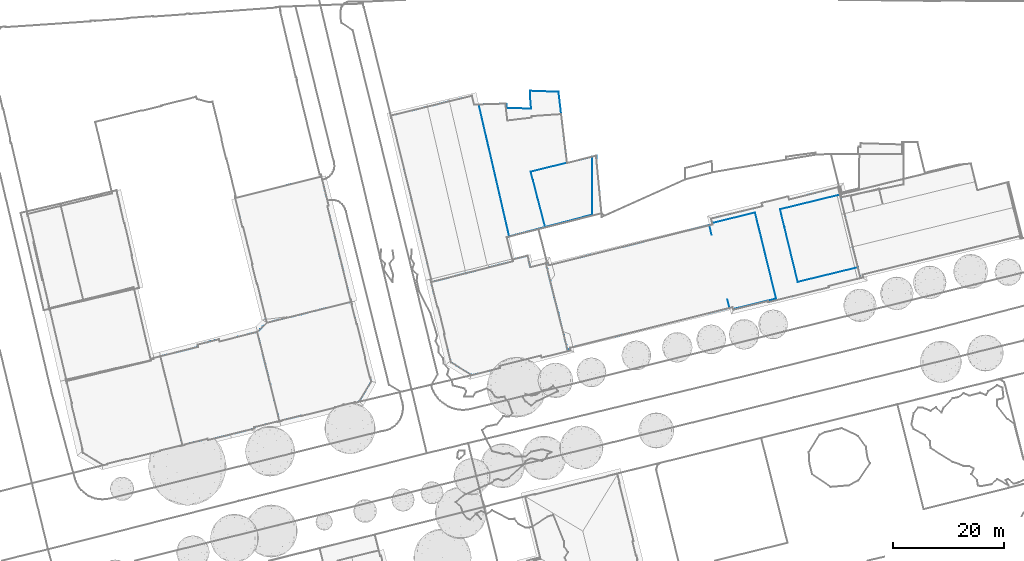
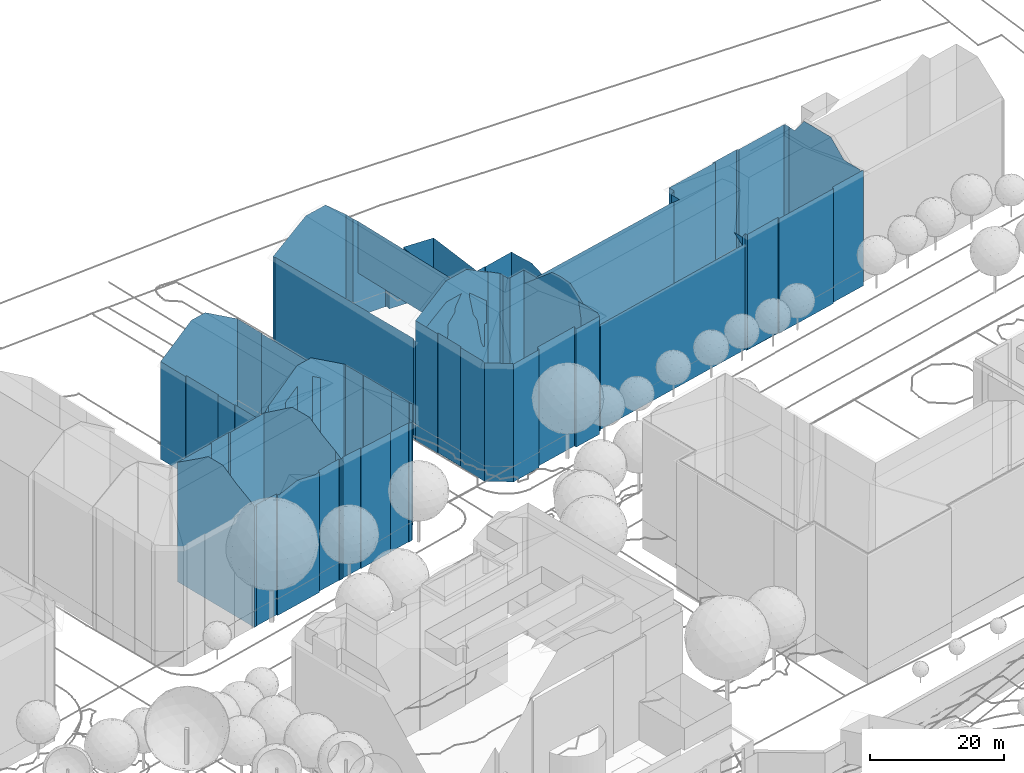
# Not in any storey, part 61 of 477: 6 walls.
"""IFC4 building model written with IfcOpenShell, lengths in metres."""

from ifc_helpers import new_model, si_unit, frame, origin_with_axes, place, context, subcontext, project, spatial, polygons, element, save


model = new_model("IFC4")

# Units and contexts
model_context = context("Model", 3, precision=1e-05, world=origin_with_axes())
body_context = subcontext(model_context, "Body", "Model", "MODEL_VIEW")
ifc_project = project(units=[si_unit("AREAUNIT", "SQUARE_METRE"), si_unit("LENGTHUNIT", "METRE")], contexts=[model_context])

# Sites, building
site_1_placement = place(None, origin_with_axes())
site_1 = spatial("IfcSite", under=ifc_project, at=site_1_placement, Name="Topoexport Site")
site_2_placement = place(site_1_placement, origin_with_axes())
site_2 = spatial("IfcSite", under=site_1, at=site_2_placement, Name="TPX_BUILDINGS")
building_1_placement = place(site_2_placement, frame((308.8567320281, 408.4549160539, 538.5095), z_axis=(0.0, 0.0, 1.0), x_axis=(1.0, 0.0, 0.0)))
building_1 = spatial("IfcBuilding", under=site_2, at=building_1_placement, Name="Building 201", CompositionType="ELEMENT")

# Wall
wall_1_placement = place(None, frame((308.8567320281, 408.4549160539, 538.5095), z_axis=(0.0, 0.0, 1.0), x_axis=(1.0, 0.0, 0.0)))
element("IfcWall", 1, at=wall_1_placement, inside=building_1, Name="Wall 0", context=body_context, shape_type="Tessellation", body=[
    polygons([(13.9759999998, 3.5067999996, 0.0), (15.5039999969, 3.8944999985, 5.4804), (13.9749999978, 3.5067999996, 21.9979), (17.4709999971, 4.3944999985, 22.0598), (16.2980000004, 4.0966999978, 22.0388), (17.4709999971, 4.3944999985, 0.0), (1.5929999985, -6.4024000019, 0.0), (1.0329999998, -4.1513999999, 24.6236), (1.5929999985, -6.4024000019, 26.1974), (18.9299999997, -1.4707000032, 26.1614), (18.9299999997, -1.4707000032, -0.0001), (1.8229999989, -7.3281000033, 0.0), (1.8229999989, -7.3281000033, 26.2114), (19.6349999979, -4.3057000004, -0.0001), (2.3619999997, -9.4942000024, -0.0001), (2.3619999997, -9.4942000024, 26.2094), (19.8399999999, -5.130900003, 26.2024), (19.6349999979, -4.3057000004, 26.2034), (19.8399999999, -5.130900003, -0.0001), (20.5169999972, -7.8545000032, 24.3446), (3.7289999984, -14.9922000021, -0.0001), (3.057, -12.2881000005, 24.3036), (19.1270000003, -12.2373000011, -0.0001), (16.9329999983, -12.7871000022, -0.0001), (16.9329999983, -12.7871000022, 22.1108), (20.5169999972, -7.8545000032, -0.0001), (21.1730000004, -10.4922000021, 22.9007), (16.992999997, -13.0196000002, 21.9838), (16.992999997, -13.0195000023, -0.0001), (16.1469999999, -13.2285000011, -0.0001), (16.0429999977, -13.2539000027, 21.9528), (21.0849999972, -11.746100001, 22.1598), (21.0849999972, -11.746100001, -0.0001), (19.1279999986, -12.2373000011, 22.1858), (21.118999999, -11.8350000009, 22.1008), (21.118999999, -11.8350000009, -0.0001), (21.481999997, -11.7373000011, -0.0001), (21.481999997, -11.7373000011, 22.0998), (21.1730000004, -10.4922000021, -0.0001), (0.0, 0.0, 0.0), (0.6739999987, 0.1679999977, 21.8519), (0.0, 0.0, 21.8489), (1.2280000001, 0.3055999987, 0.0), (0.0189999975, -0.077200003, 21.8899), (10.6609999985, 2.6659999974, 21.9659), (10.6609999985, 2.6659999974, 0.0), (9.0779999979, 2.6963, 5.4074), (8.3409999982, 2.5106999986, 21.6709), (8.3409999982, 2.5106999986, 5.3984), (9.8159999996, 2.8798999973, 8.1272), (9.0779999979, 2.6963, 21.6799), (7.6030000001, 2.3261999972, 0.0), (9.8159999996, 2.8798999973, 21.6879), (10.5529999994, 3.0643999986, 0.0), (10.5529999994, 3.0643999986, 21.6969), (2.625, 0.6552999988, 12.2798), (4.3949999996, 1.0966999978, 21.8919), (2.625, 0.6552999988, 21.8709), (1.2280000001, 0.3055999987, 21.8539), (4.0219999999, 1.0028999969, 0.0), (6.8149999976, 1.7011999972, 0.0), (1.0329999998, -4.1513999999, 0.0), (7.1600000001, 2.2148000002, 5.4134), (6.7170000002, 2.1034999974, 21.6589), (6.7170000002, 2.1034999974, 0.0), (7.4019999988, 2.2753999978, 21.6609), (6.7300000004, 2.047799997, 0.0), (6.7300000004, 2.0507999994, 21.6879), (14.8709999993, -13.5439999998, 22.2168), (13.9749999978, -13.7666000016, 8.5691), (12.5759999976, -14.1123000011, -0.0001), (12.6050000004, -14.1055000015, 22.7268), (8.9059999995, -15.0215000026, -0.0001), (9.057, -14.9844000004, 21.9508), (6.0240000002, -15.4932000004, -0.0001), (7.3809999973, -15.1582000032, 22.1318), (8.5139999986, -14.8770000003, -0.0001), (8.5139999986, -14.8770000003, 22.0928), (6.5419999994, -15.3652000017, 11.0689), (5.3019999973, -15.6719000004, 22.1818), (5.8839999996, -15.5283000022, 22.1838), (8.568, -15.1055000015, 21.9678), (8.568, -15.1055000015, -0.0001), (4.3649999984, -15.996100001, -0.0001), (4.0009999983, -16.0850000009, 22.1238), (4.3649999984, -15.996100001, 22.1238), (4.0009999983, -16.0850000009, -0.0001), (4.3420999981, -15.9101000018, 22.1788), (4.3420000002, -15.9101999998, -0.0001), (5.498999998, -15.6231000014, 5.5444), (3.7410000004, -15.0381000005, 22.7808), (6.8149999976, 1.7011999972, 21.9219)], [[[3, 2, 1]], [[6, 5, 4]], [[5, 6, 2]], [[2, 6, 1]], [[9, 8, 7]], [[6, 4, 10]], [[11, 6, 10]], [[13, 9, 12]], [[10, 14, 11]], [[16, 12, 15]], [[18, 17, 14]], [[17, 20, 19]], [[22, 15, 21]], [[25, 24, 23]], [[20, 27, 26]], [[30, 29, 28]], [[31, 30, 28]], [[23, 33, 32]], [[34, 23, 32]], [[36, 35, 33]], [[32, 33, 35]], [[38, 36, 37]], [[38, 35, 36]], [[27, 37, 39]], [[37, 27, 38]], [[42, 41, 40]], [[41, 43, 40]], [[44, 42, 40]], [[46, 45, 3]], [[3, 1, 46]], [[49, 48, 47]], [[47, 51, 50]], [[49, 52, 48]], [[52, 49, 47]], [[55, 54, 53]], [[53, 54, 50]], [[47, 50, 54]], [[47, 54, 52]], [[58, 57, 56]], [[58, 56, 59]], [[43, 59, 56]], [[60, 56, 57]], [[60, 43, 56]], [[61, 60, 57]], [[8, 44, 62]], [[65, 64, 63]], [[63, 66, 52]], [[63, 52, 65]], [[68, 64, 67]], [[30, 31, 69]], [[70, 30, 69]], [[72, 71, 70]], [[70, 71, 30]], [[71, 74, 73]], [[77, 76, 75]], [[77, 78, 76]], [[81, 80, 79]], [[79, 80, 75]], [[78, 77, 82]], [[82, 77, 83]], [[73, 74, 83]], [[86, 85, 84]], [[84, 85, 87]], [[86, 89, 88]], [[90, 80, 89]], [[80, 90, 75]], [[75, 90, 89]], [[88, 89, 80]], [[85, 21, 87]], [[21, 85, 91]], [[3, 5, 2]], [[8, 62, 7]], [[9, 7, 12]], [[18, 14, 10]], [[13, 12, 16]], [[17, 19, 14]], [[20, 26, 19]], [[16, 15, 22]], [[25, 29, 24]], [[28, 29, 25]], [[25, 23, 34]], [[27, 39, 26]], [[59, 43, 41]], [[45, 54, 55]], [[45, 46, 54]], [[48, 51, 47]], [[51, 53, 50]], [[52, 66, 48]], [[61, 92, 67]], [[68, 67, 92]], [[92, 61, 57]], [[44, 40, 62]], [[64, 66, 63]], [[64, 65, 67]], [[70, 69, 72]], [[72, 74, 71]], [[76, 81, 79]], [[76, 79, 75]], [[82, 83, 74]], [[22, 21, 91]], [[86, 84, 89]]]),
])

# Building
building_2_placement = place(site_2_placement, frame((322.3647320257, 436.9627160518, 538.8935), z_axis=(0.0, 0.0, 1.0), x_axis=(1.0, 0.0, 0.0)))
building_2 = spatial("IfcBuilding", under=site_2, at=building_2_placement, Name="Building 203", CompositionType="ELEMENT")

# Wall
wall_2_placement = place(None, frame((322.3647320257, 436.9627160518, 538.8935), z_axis=(0.0, 0.0, 1.0), x_axis=(1.0, 0.0, 0.0)))
element("IfcWall", 2, at=wall_2_placement, inside=building_2, Name="Wall 0", context=body_context, shape_type="Tessellation", body=[
    polygons([(6.2010000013, 1.558600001, -0.0001), (9.0160000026, 2.2666000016, 22.2648), (6.2010000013, 1.558600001, 22.2648), (14.6490000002, -20.2509999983, -0.0001), (11.8310000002, -20.9481999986, 22.2648), (14.6490000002, -20.2509999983, 22.2648), (3.0940000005, -11.9248000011, -0.0001), (3.0940000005, -11.9248000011, 17.9242), (3.0170000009, -11.9463, 17.8682), (3.0170000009, -11.9463, -0.0001), (3.887000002, -15.4481999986, 17.8642), (3.887000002, -15.4481999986, -0.0001), (3.9580000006, -15.436499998, 17.9142), (3.9580000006, -15.4365999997, -0.0001), (5.693, -22.4668000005, -0.0001), (4.8839999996, -19.1884999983, 17.9052), (5.693, -22.4668000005, 17.8982), (11.8310000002, -20.9481999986, -0.0001), (0.0, 0.0, 17.8492), (0.0, 0.0, 0.0), (1.2719999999, -5.2040999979, 17.8292), (1.2719999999, -5.2040999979, -0.0001), (0.5080000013, -2.0780999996, 17.8412), (1.432, -5.177699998, 17.9412), (1.432, -5.1777999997, -0.0001), (16.8340000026, -1.3456999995, -0.0001), (16.6009999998, -1.4043000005, -0.0001), (16.8340000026, -1.3456999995, 17.8612), (16.2490000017, 1.0243999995, -0.0001), (16.2820000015, 0.8887000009, 17.8572), (15.9020000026, 2.4257999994, 17.8542), (15.5370000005, 3.9061999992, -0.0001), (9.0160000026, 2.2666000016, -0.0001), (15.5370000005, 3.9061999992, 17.8512), (20.9400000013, -18.6942999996, 18.0102), (20.9400000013, -18.6942999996, -0.0001), (20.8540000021, -18.3202999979, 18.0052), (20.8540000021, -18.3202999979, -0.0001), (20.7660000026, -18.3398000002, 18.0652), (20.7660000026, -18.3398000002, -0.0001), (18.6830000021, -9.8720999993, 18.0422), (16.6009999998, -1.4043000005, 18.0192)], [[[3, 2, 1]], [[6, 5, 4]], [[9, 8, 7]], [[9, 7, 10]], [[12, 11, 9]], [[10, 12, 9]], [[14, 13, 11]], [[11, 12, 14]], [[17, 16, 15]], [[15, 16, 14]], [[13, 14, 16]], [[5, 17, 18]], [[20, 19, 3]], [[1, 20, 3]], [[23, 22, 21]], [[19, 20, 23]], [[25, 24, 21]], [[22, 25, 21]], [[7, 8, 24]], [[28, 27, 26]], [[31, 30, 29]], [[31, 29, 32]], [[30, 28, 29]], [[2, 32, 33]], [[34, 32, 2]], [[36, 35, 6]], [[4, 36, 6]], [[38, 37, 36]], [[36, 37, 35]], [[40, 39, 37]], [[37, 38, 40]], [[27, 41, 40]], [[39, 40, 41]], [[2, 33, 1]], [[5, 18, 4]], [[17, 15, 18]], [[22, 23, 20]], [[24, 25, 7]], [[42, 27, 28]], [[32, 34, 31]], [[28, 26, 29]], [[27, 42, 41]]]),
])

# Building
building_3_placement = place(site_2_placement, frame((326.3277320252, 412.8494160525, 538.5095), z_axis=(0.0, 0.0, 1.0), x_axis=(1.0, 0.0, 0.0)))
building_3 = spatial("IfcBuilding", under=site_2, at=building_3_placement, Name="Building 205", CompositionType="ELEMENT")

# Wall
wall_3_placement = place(None, frame((326.3277320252, 412.8494160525, 538.5095), z_axis=(0.0, 0.0, 1.0), x_axis=(1.0, 0.0, 0.0)))
element("IfcWall", 3, at=wall_3_placement, inside=building_3, Name="Wall 0", context=body_context, shape_type="Tessellation", body=[
    polygons([(4.3540000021, -15.9589999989, -0.0001), (7.4100000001, -15.2089999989, 22.0508), (7.9780000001, -15.0692999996, -0.0001), (4.3770000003, -16.0507999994, 22.0828), (4.3770000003, -16.0507999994, -0.0001), (4.012000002, -16.1328000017, 22.0998), (4.012000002, -16.1328000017, -0.0001), (3.7020000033, -14.8867000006, -0.0001), (3.7020000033, -14.8867000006, 22.9007), (3.0460000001, -12.2490000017, -0.0001), (9.9140000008, 3.6708999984, 0.0), (10.2670000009, 3.7578000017, -0.0001), (9.9140000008, 3.6708999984, 26.2564), (2.1640000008, -8.7001999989, -0.0001), (1.4590000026, -5.8652000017, 26.1614), (2.1640000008, -8.7001999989, 26.2034), (2.3690000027, -9.5254000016, -0.0001), (2.3690000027, -9.5254000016, 26.2024), (3.0460000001, -12.2490000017, 24.3446), (7.6760000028, 3.1171999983, 26.2614), (7.4759999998, 3.0683999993, 26.2614), (7.4759999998, 3.0683999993, 0.0), (7.6760000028, 3.1171999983, 0.0), (1.7750000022, 1.6572000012, 21.7879), (4.2250000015, 2.2637000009, 0.0), (3.9960000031, 2.2069999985, 23.5307), (1.7300000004, 1.6464999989, 0.0), (1.7300000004, 1.6464999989, 21.7779), (0.9830000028, 0.9365000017, 21.8099), (0.9770000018, 0.9307000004, 9.531), (0.5260000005, 0.5009999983, 21.8299), (0.5190000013, 0.4941999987, 0.0), (0.325000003, 0.3106000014, 21.9169), (0.2140000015, 0.2030999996, 8.1792), (0.0, 0.0, 0.0), (0.0, 0.0, 22.0598), (1.4590000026, -5.8652000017, -0.0001), (18.3960000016, -12.496100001, -0.0001), (18.3960000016, -12.496100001, 21.7298), (18.6440000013, -12.0839999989, -0.0001), (16.9869999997, 5.0166000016, 21.8229), (17.0620000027, 5.0449000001, -0.0001), (16.9869999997, 5.0166000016, -0.0001), (17.0620000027, 5.0449000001, 21.7719), (16.9830000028, 5.4199000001, 21.7569), (16.9830000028, 5.4199000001, -0.0001), (17.4060000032, 3.3427999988, -0.0001), (7.9780000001, -15.0692999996, 22.0338), (8.0090000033, -15.1504000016, 21.9738), (8.0090000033, -15.1504000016, -0.0001), (14.0, -13.6640000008, 21.8038), (14.0, -13.6640000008, -0.0001), (17.6180000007, -12.6787, -0.0001), (13.9890000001, -13.5839999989, 21.8588), (17.6180000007, -12.6787, 21.7578), (13.9890000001, -13.5839999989, -0.0001), (17.6500000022, -12.7685000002, 21.6928), (17.6500000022, -12.7685000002, -0.0001), (18.3360000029, -12.5956999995, 21.6748), (18.3360000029, -12.5956999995, -0.0001), (10.6460000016, 3.8526000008, -0.0001), (10.6460000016, 3.8526000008, 26.0255), (10.2670000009, 3.7578000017, 26.2694), (17.9869999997, 1.3975000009, -0.0001), (19.4560000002, -4.5868999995, 21.8548), (17.9869999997, 1.3975000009, 21.7979), (19.4560000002, -4.5868999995, -0.0001), (17.8969999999, 1.3828000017, -0.0001), (17.4290000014, 3.2481000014, 21.8479), (17.8969999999, 1.3828000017, 21.8589), (20.5439999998, -8.8817999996, -0.0001), (20.3780000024, -8.2148000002, 21.8678), (20.3780000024, -8.2148000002, -0.0001), (20.5439999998, -8.8817999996, 21.8728), (20.2939999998, -8.2529000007, 21.9288), (20.2939999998, -8.2529000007, -0.0001), (19.3900000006, -4.6024999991, 21.8998), (19.3900000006, -4.6024999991, -0.0001), (20.5530000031, -8.9160000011, -0.0001), (18.745000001, -11.9169999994, 21.7338), (20.5530000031, -8.9160000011, 21.8558), (4.4050000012, -15.9453000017, 22.1468), (4.3542000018, -15.9589000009, 22.1478)], [[[3, 2, 1]], [[6, 5, 4]], [[6, 7, 5]], [[4, 5, 1]], [[6, 8, 7]], [[8, 6, 9]], [[9, 10, 8]], [[13, 12, 11]], [[16, 15, 14]], [[18, 14, 17]], [[19, 17, 10]], [[22, 21, 20]], [[23, 22, 20]], [[20, 13, 23]], [[26, 25, 24]], [[24, 25, 27]], [[27, 28, 24]], [[30, 29, 27]], [[30, 31, 29]], [[32, 31, 30]], [[28, 27, 29]], [[30, 27, 32]], [[34, 33, 32]], [[36, 33, 35]], [[33, 31, 32]], [[34, 32, 35]], [[15, 35, 37]], [[35, 15, 36]], [[40, 39, 38]], [[43, 42, 41]], [[46, 45, 44]], [[43, 41, 47]], [[3, 48, 2]], [[50, 49, 48]], [[48, 3, 50]], [[51, 49, 50]], [[52, 51, 50]], [[55, 54, 53]], [[54, 56, 53]], [[58, 57, 53]], [[60, 59, 57]], [[60, 38, 39]], [[62, 46, 61]], [[45, 46, 62]], [[63, 62, 12]], [[66, 65, 64]], [[65, 67, 64]], [[68, 66, 64]], [[69, 68, 47]], [[69, 70, 68]], [[73, 72, 71]], [[74, 71, 72]], [[76, 75, 73]], [[72, 73, 75]], [[78, 77, 75]], [[75, 76, 78]], [[65, 78, 67]], [[81, 80, 79]], [[39, 40, 80]], [[80, 40, 79]], [[74, 81, 71]], [[81, 79, 71]], [[82, 1, 2]], [[83, 1, 82]], [[83, 4, 1]], [[19, 10, 9]], [[63, 12, 13]], [[15, 37, 14]], [[16, 14, 18]], [[18, 17, 19]], [[13, 11, 23]], [[25, 26, 22]], [[21, 22, 26]], [[33, 34, 35]], [[42, 44, 41]], [[44, 42, 46]], [[41, 69, 47]], [[56, 54, 51]], [[51, 52, 56]], [[53, 57, 55]], [[57, 58, 60]], [[60, 39, 59]], [[62, 61, 12]], [[66, 68, 70]], [[77, 78, 65]]]),
])

# Building
building_4_placement = place(site_2_placement, frame((350.3717320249, 451.8328160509, 539.2744), z_axis=(0.0, 0.0, 1.0), x_axis=(1.0, 0.0, 0.0)))
building_4 = spatial("IfcBuilding", under=site_2, at=building_4_placement, Name="Building 206", CompositionType="ELEMENT")

# Wall
wall_4_placement = place(None, frame((350.3717320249, 451.8328160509, 539.2744), z_axis=(0.0, 0.0, 1.0), x_axis=(1.0, 0.0, 0.0)))
element("IfcWall", 4, at=wall_4_placement, inside=building_4, Name="Wall 0", context=body_context, shape_type="Tessellation", body=[
    polygons([(25.1130000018, 3.630900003, 0.095), (25.1490000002, 4.4883000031, 8.0292), (25.1130000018, 3.630900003, 8.0292), (25.307, 1.2930000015, 0.095), (25.307, 1.2930000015, 8.0292), (20.8680000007, 1.375, 0.095), (20.8680000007, 1.375, 8.0292), (20.8850000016, 2.0957000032, 0.095), (20.8850000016, 2.0957000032, 8.0292), (20.6960000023, 2.0938000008, 0.095), (20.6960000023, 2.0938000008, 8.0292), (20.6870000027, 2.1709000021, 0.095), (20.6870000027, 2.1709000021, 8.0292), (15.875, 2.0215000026, 0.095), (15.875, 2.0215000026, 8.0292), (36.3470000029, -17.8378999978, 0.0949), (27.8430000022, -20.0673999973, 0.2009), (36.3470000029, -17.8378999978, 0.2009), (21.3670000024, -21.7636999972, 0.095), (21.3670000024, -21.7636999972, 8.0292), (27.8430000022, -20.0673999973, 8.0292), (36.2890000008, -7.4042999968, 0.0951), (36.2890000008, -7.4042999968, 0.2011), (25.1490000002, 4.4883000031, 0.095), (30.2460000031, 4.3076000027, 8.0292), (20.9350000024, -21.9130999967, 0.0), (22.0300000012, -26.2577999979, 8.8621), (22.0300000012, -26.2577999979, 13.3337), (22.0300000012, -26.2577999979, 17.8043), (20.9350000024, -21.9130999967, 17.8843), (22.0300000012, -26.2577999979, 4.3915), (22.0300000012, -26.2577999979, 0.0), (21.376000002, -21.8007999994, 0.0), (21.2390000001, -21.8358999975, 17.6033), (21.376000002, -21.8007999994, 17.4763), (21.1600000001, -21.8563999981, 4.8625), (14.6540000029, 3.5850000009, 13.6687), (15.0380000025, 2.0215000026, 18.2053), (14.6540000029, 3.5850000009, 18.2253), (14.6540000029, 3.5850000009, 4.5566), (15.0380000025, 2.0215000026, 0.0), (14.6540000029, 3.5850000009, 0.0), (0.0, 0.0, 13.3667), (0.0950000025, -0.3954999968, 17.8253), (0.0, 0.0, 8.9102), (0.0, 0.0, 17.8233), (0.0950000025, -0.3954999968, 0.0), (0.0, 0.0, 0.0), (0.1580000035, -0.3807999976, 0.0), (0.1580000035, -0.3807999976, 17.8653), (7.3410000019, -29.5145999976, 0.0), (3.7460000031, -14.9345999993, 18.0003), (7.1830000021, -29.5585999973, 18.0362), (7.1830000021, -29.5585999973, 0.0), (7.3410000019, -29.5145999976, 18.1362), (7.2940000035, -30.003899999, 13.5307), (7.2940000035, -30.003899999, 18.0412), (7.2940000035, -30.003899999, 0.0), (15.875, 2.0215000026, 8.3732), (15.875, 2.0215000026, 17.4763), (15.875, 2.0215000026, 0.0), (15.6660000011, 2.0215000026, 4.0046), (37.0890000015, -7.1639999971, 10.037), (37.0260000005, -7.1796999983, 10.037), (37.0260000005, -7.1796999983, 0.201), (37.0890000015, -7.1639999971, 0.201), (37.0260000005, -7.2177999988, 0.201), (37.0260000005, -7.2177999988, 7.5832), (31.7920000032, -8.5419999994, 0.095), (31.7920000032, -8.5419999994, 10.047), (37.0260000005, -7.2177999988, 10.044), (10.568, 2.5850000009, 21.9849), (6.6030000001, 1.6152000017, 21.9849), (10.568, 2.5850000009, 0.0), (6.6030000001, 1.6152000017, 0.0), (17.4960000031, -27.4111000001, 21.9849), (13.5390000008, -28.4169999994, 21.9849), (17.4960000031, -27.4111000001, 0.0), (13.5390000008, -28.4169999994, 0.0), (30.2460000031, 4.3076000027, 0.095), (30.7310000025, 0.2763999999, 8.0292), (30.7310000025, 0.2763999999, 0.095), (31.7840000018, -8.4706999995, 8.0292), (31.7840000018, -8.4706999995, 10.033), (37.5200000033, -12.4520999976, 11.0529), (37.0990000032, -7.994099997, 10.194), (37.0990000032, -7.994099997, 0.201), (37.5200000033, -12.4520999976, 0.2009), (38.0050000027, -17.5975999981, 0.2009), (38.0050000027, -17.5975999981, 10.051), (27.8670000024, -20.1611000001, 0.2009), (27.8670000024, -20.1611000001, 10.067), (25.2400000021, -10.0819999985, 8.0292), (25.2400000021, -10.0819999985, 10.03), (26.5840000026, -15.2343999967, 8.0292), (26.5840000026, -15.2343999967, 11.0609), (26.4370000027, -14.6737999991, 10.9499), (25.6490000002, -11.6473999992, 8.0292), (25.6490000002, -11.6473999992, 10.342), (26.4370000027, -14.6737999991, 8.0292)], [[[3, 2, 1]], [[5, 3, 4]], [[7, 5, 6]], [[9, 7, 8]], [[11, 9, 10]], [[13, 11, 12]], [[15, 13, 14]], [[18, 17, 16]], [[16, 17, 19]], [[20, 19, 17]], [[20, 17, 21]], [[23, 18, 22]], [[2, 25, 24]], [[28, 27, 26]], [[30, 29, 28]], [[31, 26, 27]], [[31, 32, 26]], [[35, 34, 33]], [[34, 36, 33]], [[33, 36, 26]], [[30, 26, 36]], [[39, 38, 37]], [[40, 37, 38]], [[42, 40, 41]], [[40, 38, 41]], [[45, 44, 43]], [[43, 44, 46]], [[45, 48, 47]], [[50, 47, 49]], [[50, 44, 47]], [[52, 50, 51]], [[50, 49, 51]], [[54, 53, 51]], [[55, 51, 53]], [[57, 53, 56]], [[53, 54, 56]], [[56, 54, 58]], [[60, 35, 59]], [[61, 14, 19]], [[35, 20, 59]], [[20, 33, 19]], [[19, 33, 61]], [[20, 15, 59]], [[41, 59, 62]], [[38, 60, 59]], [[62, 59, 15]], [[41, 62, 61]], [[14, 61, 62]], [[15, 14, 62]], [[65, 64, 63]], [[65, 63, 66]], [[68, 65, 67]], [[70, 23, 69]], [[23, 70, 68]], [[22, 69, 23]], [[71, 68, 70]], [[68, 67, 23]], [[73, 72, 39]], [[46, 73, 37]], [[43, 46, 37]], [[43, 74, 45]], [[73, 39, 37]], [[40, 43, 37]], [[40, 74, 43]], [[48, 45, 75]], [[75, 45, 74]], [[40, 42, 74]], [[28, 29, 76]], [[28, 76, 77]], [[27, 28, 77]], [[57, 31, 27]], [[31, 78, 32]], [[57, 27, 77]], [[78, 57, 56]], [[78, 56, 79]], [[56, 58, 79]], [[57, 78, 31]], [[25, 81, 80]], [[82, 80, 81]], [[81, 83, 82]], [[84, 70, 83]], [[69, 83, 70]], [[83, 69, 82]], [[87, 86, 85]], [[85, 88, 87]], [[88, 90, 89]], [[90, 88, 85]], [[90, 92, 91]], [[90, 91, 89]], [[94, 83, 93]], [[83, 94, 84]], [[92, 96, 95]], [[95, 96, 97]], [[92, 95, 21]], [[21, 17, 91]], [[21, 91, 92]], [[99, 94, 98]], [[97, 99, 100]], [[99, 98, 100]], [[98, 94, 93]], [[97, 100, 95]], [[2, 24, 1]], [[3, 1, 4]], [[5, 4, 6]], [[7, 6, 8]], [[9, 8, 10]], [[11, 10, 12]], [[13, 12, 14]], [[18, 16, 22]], [[25, 80, 24]], [[26, 30, 28]], [[34, 30, 36]], [[47, 44, 45]], [[52, 51, 55]], [[35, 33, 20]], [[59, 41, 38]], [[63, 86, 87]], [[87, 66, 63]], [[71, 65, 68]], [[65, 71, 64]]]),
])

# Building
building_5_placement = place(site_2_placement, frame((378.372732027, 425.1658160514, 539.4553), z_axis=(0.0, 0.0, 1.0), x_axis=(1.0, 0.0, 0.0)))
building_5 = spatial("IfcBuilding", under=site_2, at=building_5_placement, Name="Building 207", CompositionType="ELEMENT")

# Wall
wall_5_placement = place(None, frame((378.372732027, 425.1658160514, 539.4553), z_axis=(0.0, 0.0, 1.0), x_axis=(1.0, 0.0, 0.0)))
element("IfcWall", 5, at=wall_5_placement, inside=building_5, Name="Wall 0", context=body_context, shape_type="Tessellation", body=[
    polygons([(42.188000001, 9.8095000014, 0.132), (52.9899999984, 12.4521999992, 0.163), (42.1889999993, 9.8095000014, 0.163), (29.436999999, 6.9081999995, 19.2892), (29.436999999, 6.9081999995, 20.827), (29.8669999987, 5.1484999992, 20.827), (51.0260000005, -4.2675999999, 21.159), (40.0529999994, -6.9657999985, 0.163), (45.4450000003, -5.6395999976, 21.154), (40.0529999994, -6.9657999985, 21.149), (51.0260000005, -4.2675999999, 0.163), (50.9609999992, -4.0370999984, 0.163), (50.9609999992, -4.0370999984, 21.3139), (56.7109999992, -2.6162, 0.163), (40.0020000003, -6.7577999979, 5.4445), (40.0020000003, -6.7577999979, 0.163), (40.0020000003, -6.7577999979, 16.0075), (57.2010000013, -2.503899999, 0.163), (57.2010000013, -2.503899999, 15.9485), (57.1889999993, -2.4569999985, 5.4245), (57.1889999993, -2.4569999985, 15.9485), (57.2010000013, -2.503899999, 21.21), (57.1889999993, -2.4571000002, 0.163), (53.1550000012, 12.4912, 0.163), (52.9899999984, 12.4512000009, 5.6525), (52.870000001, 13.8330000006, 0.163), (52.6600000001, 13.7871000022, 21.216), (52.6600000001, 13.7871000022, 0.163), (52.870000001, 13.8330000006, 21.22), (43.8299999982, 11.5479000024, 0.163), (48.362999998, 12.697300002, 21.241), (43.8299999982, 11.5479000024, 21.266), (49.2190000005, 12.9141000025, 0.163), (38.8759999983, 10.9365000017, 0.163), (43.6860000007, 12.1240000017, 0.163), (43.6860000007, 12.1240000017, 20.88), (39.0199999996, 10.3516000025, 15.9995), (38.8759999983, 10.9365000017, 20.887), (39.0199999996, 10.3516000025, 21.279), (39.0199999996, 10.3516000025, 10.721), (39.0199999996, 10.3516000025, 0.163), (4.300999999, -15.177699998, 4.9885), (4.3539999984, -15.378899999, 19.0482), (4.300999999, -15.177699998, 19.2252), (4.300999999, -15.177699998, 0.0), (4.3539999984, -15.378899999, 0.0), (3.8720000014, -15.4970999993, 0.0), (3.8720000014, -15.4970999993, 19.0482), (0.0, 0.0, 0.0), (0.4160000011, 0.1016000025, 0.0), (0.0, 0.0, 19.0482), (33.0839999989, -8.0057999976, 19.3341), (32.6669999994, -6.2987999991, 20.827), (33.0839999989, -8.0057999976, 20.827), (41.4809999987, -6.2987999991, 0.0), (33.7300000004, -8.1952999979, 0.0), (41.4809999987, -6.2987999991, 0.163), (29.9499999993, 7.3252000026, 0.0), (37.6860000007, 9.2168000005, 0.163), (29.9499999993, 7.3252000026, 0.163), (56.2250000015, -0.6464999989, 0.132), (45.3929999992, -3.2949000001, 0.132), (56.2239999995, -0.6464999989, 0.163), (29.8159999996, 8.1328000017, 0.163), (29.7522, 8.1173, 21.215), (29.7522, 8.1173, 0.163), (29.8159999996, 8.1328000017, 21.259), (30.0179999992, 7.0527999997, 0.0), (30.0179999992, 7.0527999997, 21.219), (0.5309999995, -0.3066000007, 19.4092), (0.5309999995, -0.3066000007, 0.0), (33.6479999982, -7.8662, 21.207), (33.6479999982, -7.8662, 0.0), (33.7639999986, -8.3319999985, 0.163), (33.7300000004, -8.1952999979, 0.163), (33.7639999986, -8.3319999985, 21.208), (33.8370000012, -8.3134999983, 21.258), (40.0020000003, -6.7577999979, 21.288), (33.8370000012, -8.3134999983, 0.163), (57.0370000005, -2.5409999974, 0.163), (57.0370000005, -2.5409999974, 21.3199), (56.7109999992, -2.6162, 21.3229), (56.7010000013, -2.5760999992, 21.3499), (56.7010000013, -2.5760999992, 0.163), (56.9820000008, -2.5077999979, 0.163), (56.9820000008, -2.5077999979, 21.3499), (57.1889999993, -2.4569999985, 21.211), (53.1550000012, 12.4912, 21.45), (52.936999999, 13.5175999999, 21.429), (42.9450000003, 6.7168000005, 24.1847), (42.9589999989, 6.6601999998, 24.2637), (42.9739999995, 6.5987000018, 24.2637), (1.9360000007, -7.748999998, 24.3047), (1.4539999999, -5.8202999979, 24.1447), (2.4180000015, -9.6766999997, 24.1447), (1.818, -7.2773000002, 0.0), (2.4180000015, -9.6766999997, 0.0), (37.6860000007, 9.2168000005, 0.0), (39.6349999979, 1.2451000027, 0.0), (39.5830000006, 1.4590000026, 0.163), (40.055999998, -0.4716999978, 0.0), (40.055999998, -0.4716999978, 0.163), (45.3929999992, -3.2949000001, 0.163), (52.9899999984, 12.4521999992, 0.132), (53.7670000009, 9.3027999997, 0.132), (55.1570000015, 3.6768000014, 0.132), (55.8299999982, 0.9530999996, 21.5449), (53.2829999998, 11.2655999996, 21.5599), (52.9899999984, 12.4512000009, 21.5619), (53.7670000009, 9.3027999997, 24.2637), (55.1570000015, 3.6768000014, 24.3037), (56.631000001, -2.2928999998, 21.5399), (0.4160000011, 0.1016000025, 19.0482)], [[[3, 2, 1]], [[6, 5, 4]], [[9, 8, 7]], [[10, 8, 9]], [[7, 8, 11]], [[7, 11, 12]], [[12, 14, 13]], [[15, 8, 10]], [[8, 15, 16]], [[15, 10, 17]], [[20, 19, 18]], [[19, 20, 21]], [[19, 21, 22]], [[20, 18, 23]], [[25, 2, 24]], [[28, 27, 26]], [[26, 27, 29]], [[32, 31, 30]], [[28, 33, 27]], [[31, 27, 33]], [[36, 35, 34]], [[39, 38, 37]], [[41, 40, 34]], [[40, 38, 34]], [[44, 43, 42]], [[45, 42, 43]], [[43, 47, 46]], [[47, 43, 48]], [[51, 50, 49]], [[54, 53, 52]], [[57, 56, 55]], [[60, 59, 58]], [[63, 62, 61]], [[40, 41, 64]], [[64, 66, 65]], [[65, 67, 37]], [[65, 37, 40]], [[37, 67, 39]], [[65, 40, 64]], [[69, 60, 68]], [[60, 69, 65]], [[68, 60, 58]], [[66, 60, 65]], [[4, 71, 70]], [[4, 5, 69]], [[68, 71, 4]], [[4, 69, 68]], [[72, 54, 52]], [[52, 73, 72]], [[73, 52, 42]], [[44, 42, 52]], [[45, 73, 42]], [[76, 75, 74]], [[75, 76, 72]], [[75, 73, 56]], [[73, 75, 72]], [[77, 76, 17]], [[17, 78, 77]], [[76, 15, 17]], [[79, 16, 15]], [[74, 79, 15]], [[15, 76, 74]], [[80, 19, 14]], [[18, 19, 80]], [[19, 22, 81]], [[82, 14, 81]], [[81, 14, 19]], [[84, 83, 20]], [[20, 85, 84]], [[21, 83, 86]], [[21, 20, 83]], [[20, 23, 85]], [[86, 87, 21]], [[26, 29, 24]], [[29, 89, 88]], [[24, 29, 88]], [[92, 91, 90]], [[94, 51, 93]], [[95, 93, 51]], [[95, 51, 48]], [[51, 49, 48]], [[49, 96, 48]], [[97, 47, 48]], [[48, 96, 97]], [[59, 99, 98]], [[100, 99, 59]], [[102, 101, 99]], [[101, 57, 55]], [[57, 101, 102]], [[102, 99, 100]], [[1, 103, 3]], [[103, 1, 62]], [[105, 104, 2]], [[105, 2, 25]], [[105, 25, 106]], [[63, 61, 106]], [[83, 84, 63]], [[106, 107, 63]], [[107, 106, 25]], [[25, 109, 108]], [[25, 108, 107]], [[111, 108, 110]], [[107, 83, 63]], [[112, 83, 107]], [[108, 111, 107]], [[2, 104, 1]], [[12, 13, 7]], [[13, 14, 82]], [[10, 78, 17]], [[21, 87, 22]], [[88, 25, 24]], [[109, 25, 88]], [[31, 33, 30]], [[35, 36, 30]], [[32, 30, 36]], [[36, 34, 38]], [[37, 38, 40]], [[46, 45, 43]], [[50, 113, 70]], [[50, 70, 71]], [[113, 50, 51]], [[75, 56, 57]], [[59, 98, 58]], [[103, 62, 63]]]),
])

# Building
building_6_placement = place(site_2_placement, frame((357.6657320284, 421.8289160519, 539.1994), z_axis=(0.0, 0.0, 1.0), x_axis=(1.0, 0.0, 0.0)))
building_6 = spatial("IfcBuilding", under=site_2, at=building_6_placement, Name="Building 208", CompositionType="ELEMENT")

# Wall
wall_6_placement = place(None, frame((357.6657320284, 421.8289160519, 539.1994), z_axis=(0.0, 0.0, 1.0), x_axis=(1.0, 0.0, 0.0)))
element("IfcWall", 6, at=wall_6_placement, inside=building_6, Name="Wall 0", context=body_context, shape_type="Tessellation", body=[
    polygons([(17.9029999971, 2.6816999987, 21.7559), (17.8849999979, 2.6768000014, 21.7569), (17.8849999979, 2.6768000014, 0.0), (17.8019999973, 3.0067999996, 21.5499), (17.7619999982, 3.1669999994, 21.4499), (17.7618999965, 3.1689000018, 0.0), (17.811999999, 2.9677999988, 7.6362), (20.6909999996, 3.4024000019, 0.0), (20.6989999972, 3.371100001, 21.7719), (20.6909999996, 3.4024000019, 21.7509), (20.8589999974, 2.7294999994, 6.8033), (20.8249999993, 2.8672000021, 21.7759), (20.9559999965, 2.3438000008, 0.0), (20.9559999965, 2.3418000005, 21.7799), (21.4959999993, 0.183600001, 0.0), (21.4959999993, 0.1816999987, 21.7859), (15.5939999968, 4.307599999, 6.6533), (16.1839999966, 4.4561000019, 22.2328), (14.6539999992, 4.072300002, 23.2067), (17.2089999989, 4.7138999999, 0.0), (14.6539999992, 4.072300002, 0.0), (14.7359999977, 3.746100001, 0.0), (14.7359999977, 3.746100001, 23.2047), (12.3159999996, 3.1308999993, 24.7456), (10.4019999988, 2.6436000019, 25.9645), (10.4019999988, 2.6436000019, 0.0), (12.2979999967, 3.126000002, 5.2835), (17.5269999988, 4.0967000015, 0.0), (17.5269999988, 4.0967000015, 21.4679), (17.5659999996, 4.1074000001, 21.4419), (17.5659999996, 4.1074000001, 0.0), (17.4009999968, 4.7617000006, 0.0), (17.4009999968, 4.7617000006, 21.4549), (17.6589999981, 3.5742000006, 7.3693), (6.7789999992, 1.7226999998, 0.0), (6.5539999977, 1.6660000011, 25.9655), (6.193, 1.5751999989, 0.0), (6.182, 1.572300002, 25.9655), (3.6309999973, 0.9228999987, 0.0), (4.8089999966, 1.2226999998, 25.0476), (0.0, 0.0, 21.8309), (0.0, 0.0, 0.0), (0.0629999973, -0.2518999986, 21.8319), (7.1589999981, -16.7118999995, 21.6089), (7.2819999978, -16.7890999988, 21.5399), (7.2819999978, -16.7890000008, -0.0001), (7.1589999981, -16.7118999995, -0.0001), (7.8339999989, -16.6503999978, 21.5419), (7.8339999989, -16.6503999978, -0.0001), (3.5829999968, -14.4844000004, 0.0), (3.4959999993, -14.1338, 0.0), (3.4959999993, -14.1338, 21.8199), (6.2119999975, -16.1220999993, 21.6229), (5.3169999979, -15.5654000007, -0.0001), (3.5829999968, -14.4844000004, 21.6619), (4.6419999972, -15.1444999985, 21.6459), (2.4519999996, -9.3847999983, 0.0), (1.2679999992, -4.5654000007, 0.0), (2.4519999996, -9.3847999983, 21.9059), (2.3279999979, -9.4120999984, 0.0), (2.3279999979, -9.4120999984, 21.8239), (0.5279999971, -2.1182000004, 0.0), (0.310999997, -1.2470999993, 21.8319), (0.7179999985, -2.8768999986, 21.8329), (1.1439999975, -4.5868999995, 0.0), (1.1439999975, -4.5868999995, 21.8339), (1.2679999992, -4.5654000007, 21.9159), (24.5169999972, -11.9100999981, -0.0001), (24.379999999, -11.3632999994, 21.9558), (24.3809999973, -11.365199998, -0.0001), (24.5179999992, -11.9131000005, 21.9588), (24.0999999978, -10.2432000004, 5.4814), (23.932, -9.5722999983, 22.0188), (23.9299999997, -9.5625, -0.0001), (12.3529999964, -15.1123000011, -0.0001), (12.4469999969, -15.490199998, -0.0001), (12.3529999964, -15.1123000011, 21.8199), (19.8239999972, -13.248999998, 21.8399), (19.8239999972, -13.248999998, -0.0001), (24.6529999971, -12.4550999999, -0.0001), (19.9179999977, -13.6268999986, -0.0001), (19.9179999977, -13.6268999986, 21.5809), (24.5869999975, -12.1884999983, 8.5611), (24.6529999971, -12.4550999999, 21.5879), (22.1999999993, -2.6347999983, 0.0), (21.9609999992, -1.6766999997, 12.2648), (21.8499999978, -1.2344000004, 5.4334), (22.2059999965, -2.6591999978, 21.8349), (21.8499999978, -1.2344000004, 21.8099), (22.7579999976, -4.8671999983, 5.4584), (22.6729999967, -4.5302999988, 21.8659), (22.4809999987, -3.7588, 5.4404), (22.3699999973, -3.316399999, 21.8459), (22.9439999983, -5.6141999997, -0.0001), (23.0019999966, -5.8447000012, 21.8819), (22.9409999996, -5.6024999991, 21.8839), (22.9799999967, -5.7567999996, 6.8373), (23.0449999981, -6.0185000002, -0.0001), (23.0429999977, -6.0088999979, 21.8819), (23.3029999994, -7.0507999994, 21.9218), (17.1619999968, 4.7021999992, 21.6109), (17.6259999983, 3.7050999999, 21.4599), (12.4469999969, -15.490199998, 21.5609)], [[[3, 2, 1]], [[6, 5, 4]], [[7, 6, 4]], [[2, 3, 7]], [[7, 3, 6]], [[1, 8, 3]], [[8, 10, 9]], [[8, 12, 11]], [[11, 12, 13]], [[8, 9, 12]], [[12, 14, 13]], [[11, 13, 8]], [[13, 16, 15]], [[19, 18, 17]], [[17, 18, 20]], [[17, 20, 21]], [[23, 21, 22]], [[26, 25, 24]], [[23, 22, 24]], [[27, 22, 26]], [[30, 29, 28]], [[32, 30, 31]], [[33, 30, 32]], [[20, 33, 32]], [[34, 6, 28]], [[35, 25, 26]], [[35, 36, 25]], [[39, 38, 37]], [[37, 36, 35]], [[41, 40, 39]], [[41, 39, 42]], [[40, 38, 39]], [[41, 42, 43]], [[46, 45, 44]], [[44, 47, 46]], [[49, 48, 46]], [[45, 46, 48]], [[52, 51, 50]], [[47, 44, 53]], [[54, 47, 53]], [[56, 55, 54]], [[55, 50, 54]], [[59, 58, 57]], [[61, 57, 60]], [[60, 51, 52]], [[61, 60, 52]], [[64, 63, 62]], [[66, 64, 65]], [[64, 62, 65]], [[63, 42, 62]], [[65, 58, 67]], [[66, 65, 67]], [[70, 69, 68]], [[69, 71, 68]], [[74, 73, 72]], [[69, 70, 73]], [[72, 73, 70]], [[72, 70, 74]], [[77, 76, 75]], [[79, 78, 75]], [[77, 75, 78]], [[82, 81, 80]], [[84, 80, 83]], [[83, 80, 68]], [[87, 86, 85]], [[15, 16, 87]], [[86, 89, 88]], [[88, 85, 86]], [[87, 85, 15]], [[92, 91, 90]], [[85, 88, 93]], [[92, 85, 93]], [[91, 94, 90]], [[92, 90, 94]], [[92, 94, 85]], [[97, 96, 95]], [[96, 97, 94]], [[97, 95, 98]], [[99, 98, 95]], [[97, 98, 94]], [[98, 100, 74]], [[98, 99, 100]], [[100, 73, 74]], [[7, 4, 2]], [[10, 8, 1]], [[13, 14, 16]], [[19, 17, 21]], [[19, 21, 23]], [[24, 22, 27]], [[24, 27, 26]], [[31, 30, 28]], [[20, 18, 101]], [[101, 33, 20]], [[102, 5, 34]], [[28, 29, 102]], [[102, 34, 28]], [[5, 6, 34]], [[36, 37, 38]], [[55, 52, 50]], [[56, 54, 53]], [[67, 58, 59]], [[59, 57, 61]], [[43, 42, 63]], [[103, 76, 77]], [[81, 82, 78]], [[78, 79, 81]], [[84, 82, 80]], [[84, 83, 71]], [[68, 71, 83]], [[103, 48, 76]], [[48, 49, 76]], [[16, 86, 87]], [[89, 86, 16]], [[93, 91, 92]], [[96, 94, 91]]]),
])

save(model, "model.ifc")
